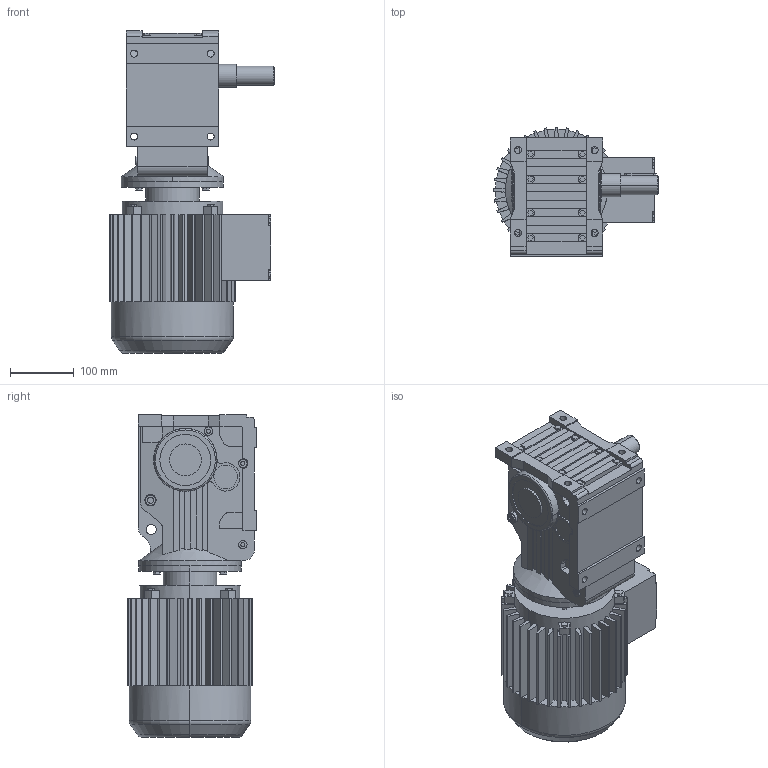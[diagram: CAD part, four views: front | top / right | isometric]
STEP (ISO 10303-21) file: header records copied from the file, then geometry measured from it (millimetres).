
FILE_DESCRIPTION(('Open CASCADE Model'),'2;1');
FILE_NAME('Open CASCADE Shape Model','2021-06-18T13:25:22',('Author'),( 'Open CASCADE'),'Open CASCADE STEP processor 6.3','Open CASCADE 6.3' ,'Unknown');
FILE_SCHEMA(('AUTOMOTIVE_DESIGN_CC2 { 1 2 10303 214 -1 1 5 4 }'));
Length unit declared in the file: millimetre
Products named in the file (4): 1_K47DT90-A; K37‵157_47.step; 萇儂_160-DT90-269-354-197-154.step; す瑩妗陑粣K_47.step
Assembly tree (3 placements, depth 2):
  1_K47DT90-A
    K37‵157_47.step
    萇儂_160-DT90-269-354-197-154.step
    す瑩妗陑粣K_47.step
Bounding box: 258.5 x 203.3 x 506 mm (x, y, z)
Volume: 11597148.4 mm3; surface area: 696358.4 mm2
Topology: 3 solids, 3 shells, 834 faces, 2199 edges, 1428 vertices
Faces by surface type: plane 582, cylinder 230, cone 14, torus 8
Entity records: 57311 total; most frequent: CARTESIAN_POINT 15510, DIRECTION 7207, ORIENTED_EDGE 4394, PCURVE 4394, DEFINITIONAL_REPRESENTATION 4394, LINE 3929, VECTOR 3929, EDGE_CURVE 2197
